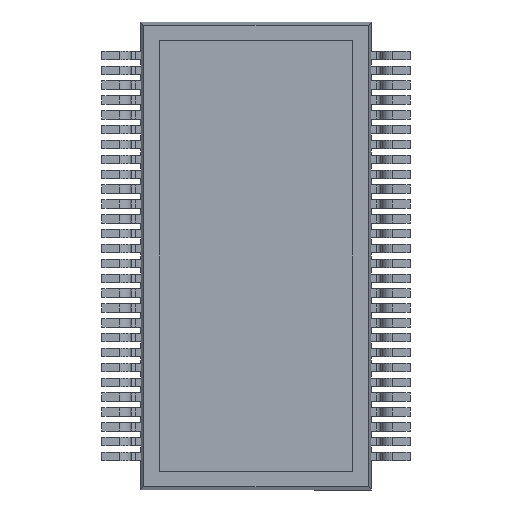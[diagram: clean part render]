
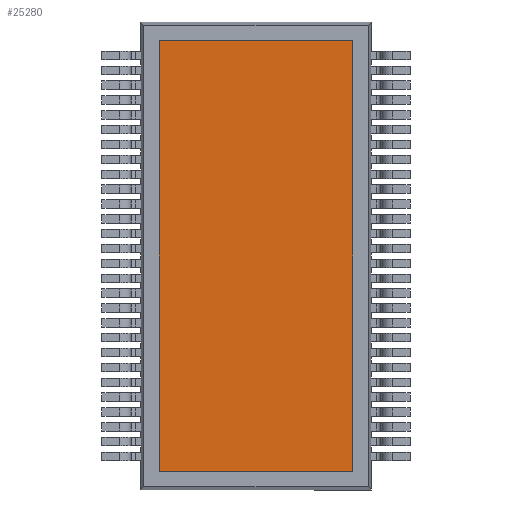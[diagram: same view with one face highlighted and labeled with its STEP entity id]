
A CAD part, front view. The second image highlights one B-rep face of the part: STEP entity #25280.
In plain terms, the highlighted planar face has unit normal (0, -1, 0).
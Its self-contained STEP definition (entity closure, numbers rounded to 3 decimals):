
#972 = CARTESIAN_POINT ( 'NONE',  ( 2.6, 0., 5.8 ) ) ;
#3422 = CARTESIAN_POINT ( 'NONE',  ( 2.6, 0., -5.8 ) ) ;
#3425 = CARTESIAN_POINT ( 'NONE',  ( -2.6, 0., -5.8 ) ) ;
#3427 = CARTESIAN_POINT ( 'NONE',  ( -2.6, 0., 5.8 ) ) ;
#16987 = VERTEX_POINT ( 'NONE', #3422 ) ;
#16991 = VERTEX_POINT ( 'NONE', #972 ) ;
#16997 = VERTEX_POINT ( 'NONE', #3425 ) ;
#17000 = VERTEX_POINT ( 'NONE', #3427 ) ;
#23384 = EDGE_LOOP ( 'NONE', ( #32722, #32723, #32724, #32725 ) ) ;
#24447 = AXIS2_PLACEMENT_3D ( 'NONE', #30219, #30220, #30221 ) ;
#25280 = ADVANCED_FACE ( 'NONE', ( #31407 ), #30199, .F. ) ;
#29425 = CARTESIAN_POINT ( 'NONE',  ( 2.6, 0., 5.8 ) ) ;
#29430 = DIRECTION ( 'NONE',  ( 0., 0., 1. ) ) ;
#29431 = CARTESIAN_POINT ( 'NONE',  ( -2.6, 0., 5.8 ) ) ;
#29433 = CARTESIAN_POINT ( 'NONE',  ( -2.6, 0., 5.8 ) ) ;
#29435 = DIRECTION ( 'NONE',  ( -1., 0., 0. ) ) ;
#29438 = DIRECTION ( 'NONE',  ( 0., 0., -1. ) ) ;
#29439 = CARTESIAN_POINT ( 'NONE',  ( -2.6, 0., -5.8 ) ) ;
#29441 = DIRECTION ( 'NONE',  ( 1., 0., 0. ) ) ;
#30199 = PLANE ( 'NONE',  #24447 ) ;
#30219 = CARTESIAN_POINT ( 'NONE',  ( 0., 0., 0. ) ) ;
#30220 = DIRECTION ( 'NONE',  ( 0., 1., 0. ) ) ;
#30221 = DIRECTION ( 'NONE',  ( 0., 0., 1. ) ) ;
#31407 = FACE_OUTER_BOUND ( 'NONE', #23384, .T. ) ;
#31843 = EDGE_CURVE ( 'NONE', #16987, #16991, #34463, .T. ) ;
#31846 = EDGE_CURVE ( 'NONE', #16991, #17000, #34476, .T. ) ;
#31848 = EDGE_CURVE ( 'NONE', #17000, #16997, #34478, .T. ) ;
#31849 = EDGE_CURVE ( 'NONE', #16997, #16987, #34484, .T. ) ;
#32722 = ORIENTED_EDGE ( 'NONE', *, *, #31843, .T. ) ;
#32723 = ORIENTED_EDGE ( 'NONE', *, *, #31846, .T. ) ;
#32724 = ORIENTED_EDGE ( 'NONE', *, *, #31848, .T. ) ;
#32725 = ORIENTED_EDGE ( 'NONE', *, *, #31849, .T. ) ;
#34463 = LINE ( 'NONE', #29425, #34475 ) ;
#34475 = VECTOR ( 'NONE', #29430, 1000. ) ;
#34476 = LINE ( 'NONE', #29431, #34481 ) ;
#34478 = LINE ( 'NONE', #29433, #34485 ) ;
#34481 = VECTOR ( 'NONE', #29435, 1000. ) ;
#34484 = LINE ( 'NONE', #29439, #34487 ) ;
#34485 = VECTOR ( 'NONE', #29438, 1000. ) ;
#34487 = VECTOR ( 'NONE', #29441, 1000. ) ;
